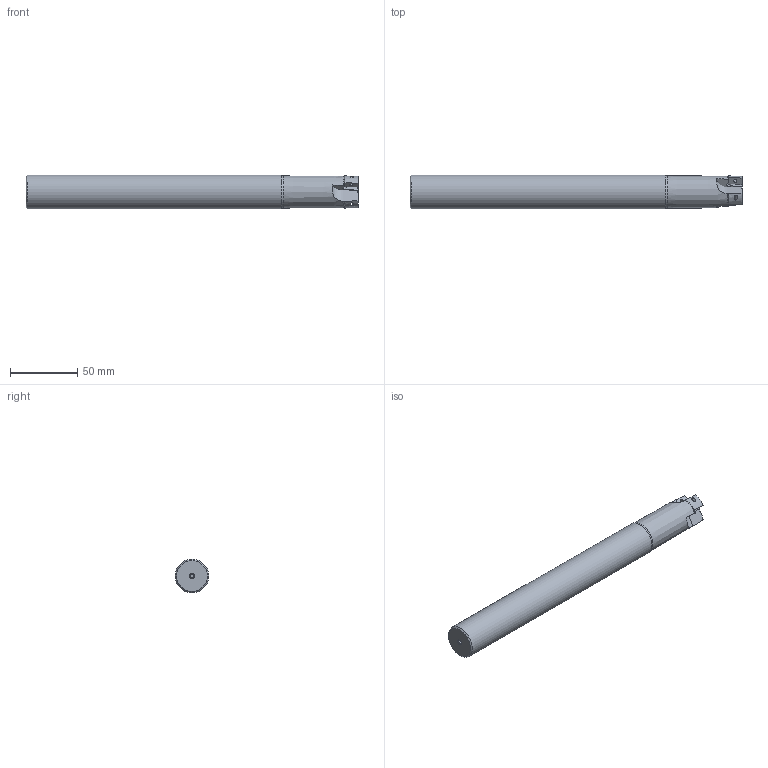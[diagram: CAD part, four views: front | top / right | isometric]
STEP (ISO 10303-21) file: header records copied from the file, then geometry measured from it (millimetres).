
FILE_DESCRIPTION(/* description */ (''),/* implementation_level */ '2;1');
FILE_NAME(/* name */ 'Z:\Проектный отдел\4INVENTOR Модели комплектующих\Комплектующие к ЧПУ\Режущий инструмент\Фрезы концевые со сменными пластинами\BAP300R-C25-25-250-3T.stp',/* time_stamp */ '2023-10-17T14:29:45+03:00',/* author */ ('Рекина Арина'),/* organization */ (''),/* preprocessor_version */ 'ST-DEVELOPER v18',/* originating_system */ 'Autodesk Inventor 2020',/* authorisation */ '');
FILE_SCHEMA (('AUTOMOTIVE_DESIGN { 1 0 10303 214 3 1 1 }'));
Length unit declared in the file: millimetre
Products named in the file (1): EAP300R-C10-10-120L-1T
Bounding box: 246 x 25 x 25 mm (x, y, z)
Volume: 115153.5 mm3; surface area: 20297.8 mm2
Topology: 1 solids, 1 shells, 51 faces, 152 edges, 105 vertices
Faces by surface type: plane 22, cylinder 12, torus 10, cone 7
Full cylindrical faces by diameter (mm): 2 x1, 2.5 x3, 3 x1, 25 x1
Entity records: 2115 total; most frequent: CARTESIAN_POINT 652, ORIENTED_EDGE 304, DIRECTION 283, EDGE_CURVE 152, AXIS2_PLACEMENT_3D 114, VERTEX_POINT 105, EDGE_LOOP 59, LINE 55
